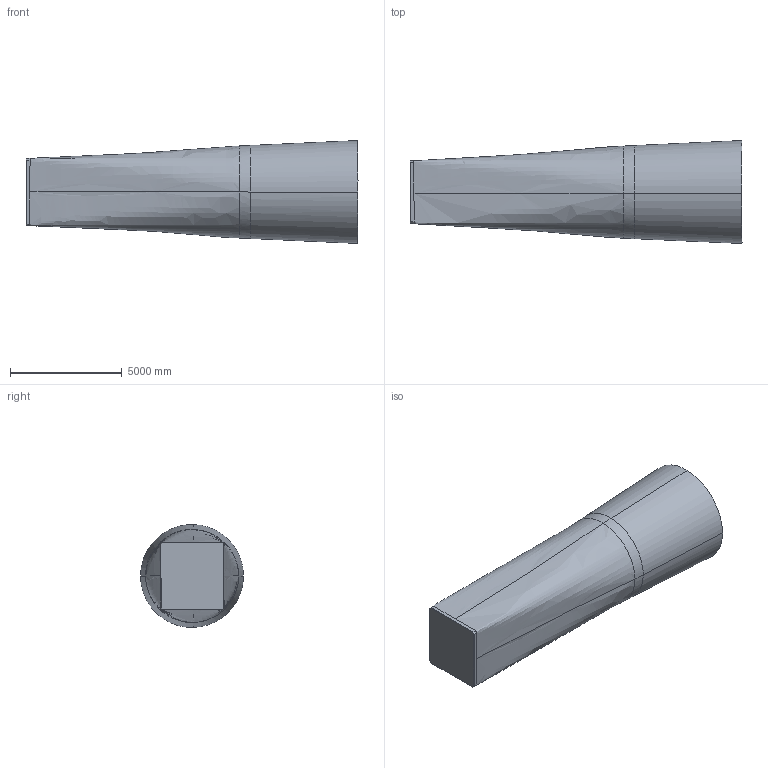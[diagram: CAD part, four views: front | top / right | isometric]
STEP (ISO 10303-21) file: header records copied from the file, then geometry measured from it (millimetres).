
FILE_DESCRIPTION(/* description */ (''),/* implementation_level */ '2;1');
FILE_NAME(/* name */ 'NTF_Diffusor_2023_10_02.stp',/* time_stamp */ '2023-10-02T14:25:03-04:00',/* author */ (''),/* organization */ (''),/* preprocessor_version */ 'ST-DEVELOPER v16.7',/* originating_system */ 'SIEMENS PLM Software NX 12.0',/* authorisation */ '');
FILE_SCHEMA (('AUTOMOTIVE_DESIGN { 1 0 10303 214 3 1 1 1 }'));
Length unit declared in the file: inch
Products named in the file (1): sbry3178F678wn2p
Bounding box: 14829.01 x 4596.02 x 4594.4 mm (x, y, z)
Volume: 181929714743.3 mm3; surface area: 212789934.9 mm2
Topology: 1 solids, 1 shells, 30 faces, 68 edges, 40 vertices
Faces by surface type: bspline 28, plane 2
Entity records: 24840 total; most frequent: CARTESIAN_POINT 24365, ORIENTED_EDGE 136, EDGE_CURVE 68, B_SPLINE_CURVE_WITH_KNOTS 62, VERTEX_POINT 40, ADVANCED_FACE 30, FACE_OUTER_BOUND 30, EDGE_LOOP 30
